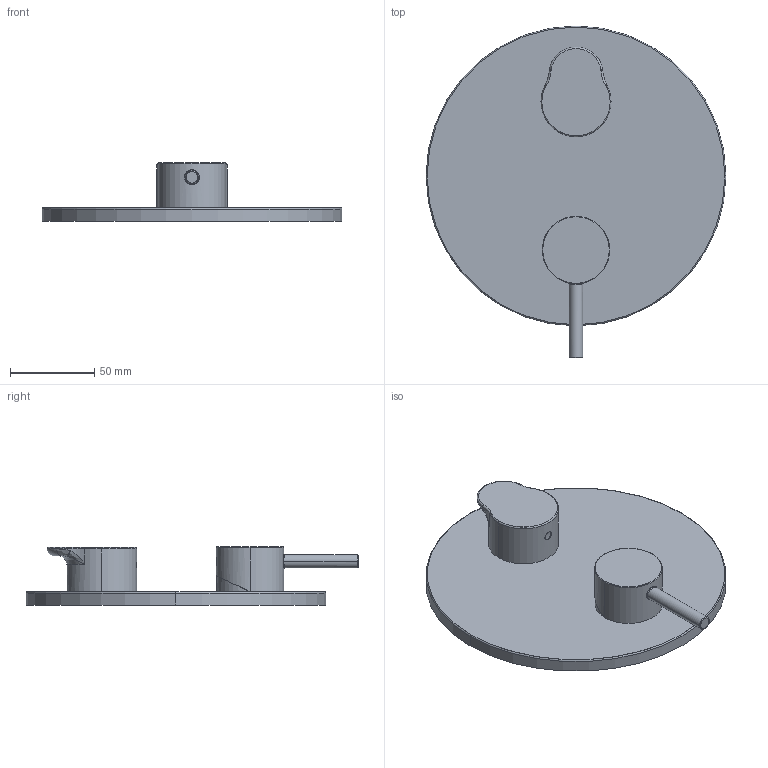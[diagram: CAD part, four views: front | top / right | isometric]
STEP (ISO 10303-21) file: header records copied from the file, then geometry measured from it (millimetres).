
FILE_DESCRIPTION (( 'STEP AP214' ), '1' );
FILE_NAME ('02230710 x architetti.STEP', '2024-09-16T08:59:55', ( '' ), ( '' ), 'SwSTEP 2.0', 'SolidWorks 2020', '' );
FILE_SCHEMA (( 'AUTOMOTIVE_DESIGN' ));
Length unit declared in the file: millimetre
Products named in the file (1): 02230710 x architetti
Bounding box: 177.8 x 196.9 x 34.5 mm (x, y, z)
Volume: 271392.4 mm3; surface area: 62382.4 mm2
Topology: 1 solids, 1 shells, 59 faces, 132 edges, 78 vertices
Faces by surface type: cylinder 28, bspline 12, torus 12, plane 7
Entity records: 3071 total; most frequent: CARTESIAN_POINT 1262, DIRECTION 262, ORIENTED_EDGE 260, EDGE_CURVE 130, AXIS2_PLACEMENT_3D 118, VERTEX_POINT 78, CIRCLE 70, EDGE_LOOP 64
